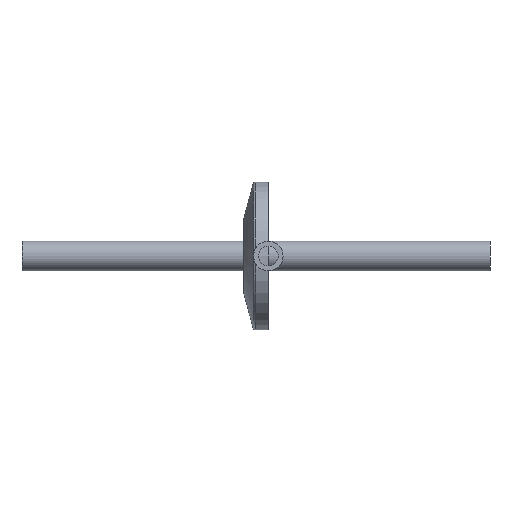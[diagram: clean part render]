
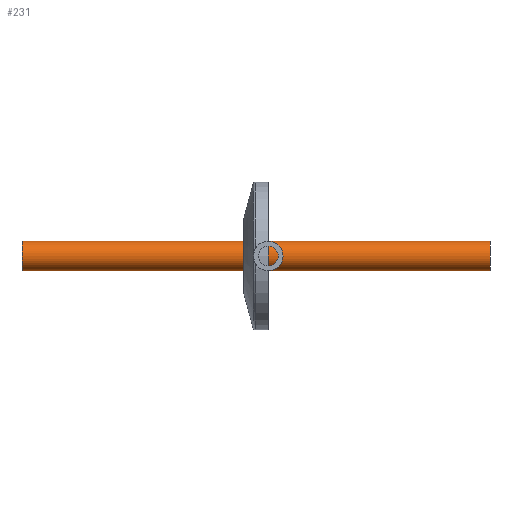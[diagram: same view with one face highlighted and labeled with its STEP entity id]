
A CAD part, front view. The second image highlights one B-rep face of the part: STEP entity #231.
In plain terms, the highlighted cylindrical face has radius 3 mm (diameter 6 mm), a full revolution.
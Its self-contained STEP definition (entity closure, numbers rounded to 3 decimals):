
#231 = ADVANCED_FACE( '', ( #316, #317 ), #318, .T. );
#316 = FACE_OUTER_BOUND( '', #354, .T. );
#317 = FACE_OUTER_BOUND( '', #355, .T. );
#318 = CYLINDRICAL_SURFACE( '', #356, 3. );
#354 = EDGE_LOOP( '', ( #407 ) );
#355 = EDGE_LOOP( '', ( #408 ) );
#356 = AXIS2_PLACEMENT_3D( '', #409, #410, #411 );
#407 = ORIENTED_EDGE( '', *, *, #463, .T. );
#408 = ORIENTED_EDGE( '', *, *, #464, .F. );
#409 = CARTESIAN_POINT( '', ( 0., -95., 0. ) );
#410 = DIRECTION( '', ( 0., -1., 0. ) );
#411 = DIRECTION( '', ( 0., 0., 1. ) );
#463 = EDGE_CURVE( '', #508, #508, #509, .T. );
#464 = EDGE_CURVE( '', #510, #510, #511, .T. );
#508 = VERTEX_POINT( '', #516 );
#509 = CIRCLE( '', #517, 3. );
#510 = VERTEX_POINT( '', #518 );
#511 = CIRCLE( '', #519, 3. );
#516 = CARTESIAN_POINT( '', ( 3., -95., 0. ) );
#517 = AXIS2_PLACEMENT_3D( '', #526, #527, #528 );
#518 = CARTESIAN_POINT( '', ( 3., 0., 0. ) );
#519 = AXIS2_PLACEMENT_3D( '', #529, #530, #531 );
#526 = CARTESIAN_POINT( '', ( 0., -95., 0. ) );
#527 = DIRECTION( '', ( 0., 1., 0. ) );
#528 = DIRECTION( '', ( 1., 0., 0. ) );
#529 = CARTESIAN_POINT( '', ( 0., 0., 0. ) );
#530 = DIRECTION( '', ( 0., 1., 0. ) );
#531 = DIRECTION( '', ( 1., 0., 0. ) );
